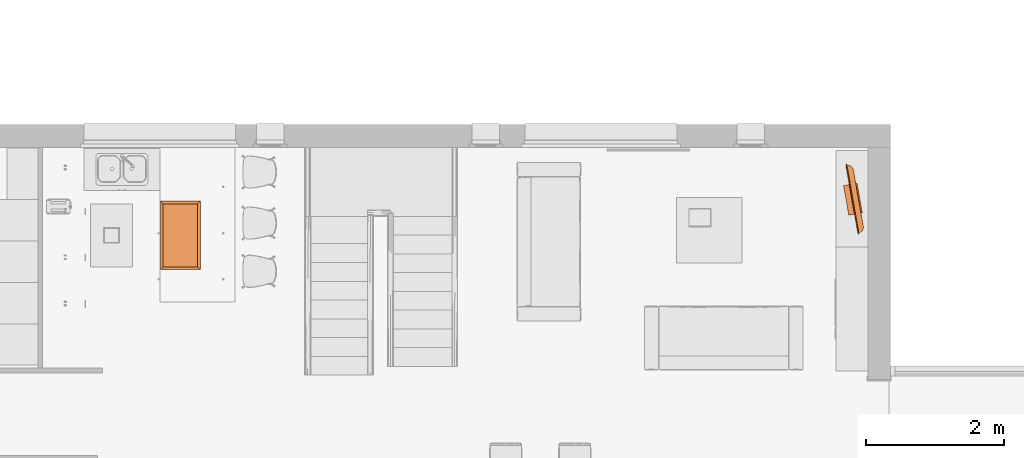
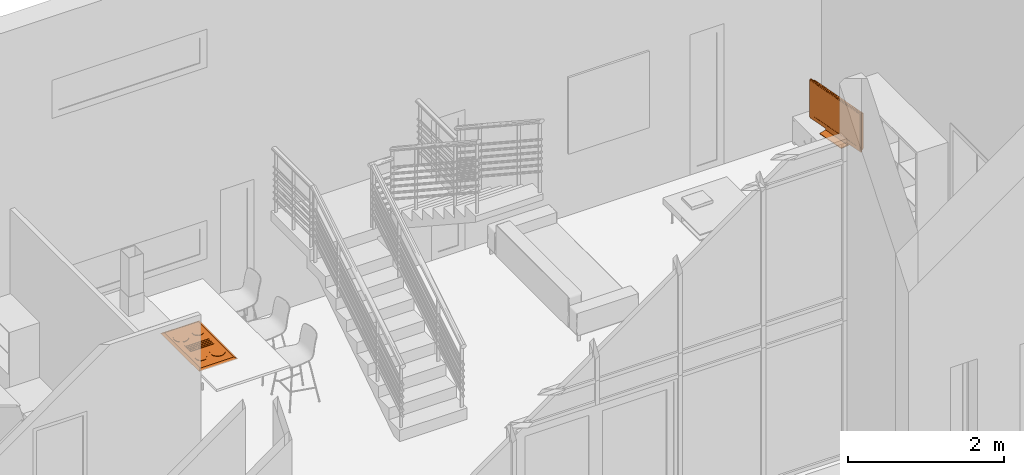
# One storey, part 39 of 40: 2 proxies.
"""IFC2X3 building model written with IfcOpenShell, lengths in metres."""

from ifc_helpers import new_model, entity, si_unit, converted_unit, derived_unit, direction, frame, origin, place, context, subcontext, project, spatial, faceted_brep, source, transform, mapped, material, material_list, type_object, type_shapes, element, save


model = new_model("IFC2X3")

# Units and contexts
model_context = context("Model", 3, precision=1e-05, world=origin(), true_north=direction((6.12303176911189e-17, 1.0)))
body_context = subcontext(model_context, "Body", "Model", "MODEL_VIEW")
ifc_project = project(units=[si_unit("LENGTHUNIT", "METRE"), si_unit("AREAUNIT", "SQUARE_METRE"), si_unit("VOLUMEUNIT", "CUBIC_METRE"), converted_unit("PLANEANGLEUNIT", "DEGREE", entity("IfcRatioMeasure", 0.0174532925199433), si_unit("PLANEANGLEUNIT", "RADIAN"), dimensions=[0, 0, 0, 0, 0, 0, 0]), si_unit("MASSUNIT", "GRAM", prefix="KILO"), derived_unit("MASSDENSITYUNIT", [(si_unit("MASSUNIT", "GRAM", prefix="KILO"), 1), (si_unit("LENGTHUNIT", "METRE"), -3)]), si_unit("TIMEUNIT", "SECOND"), si_unit("FREQUENCYUNIT", "HERTZ"), si_unit("THERMODYNAMICTEMPERATUREUNIT", "DEGREE_CELSIUS"), derived_unit("THERMALTRANSMITTANCEUNIT", [(si_unit("MASSUNIT", "GRAM", prefix="KILO"), 1), (si_unit("THERMODYNAMICTEMPERATUREUNIT", "KELVIN"), -1), (si_unit("TIMEUNIT", "SECOND"), -3)]), derived_unit("VOLUMETRICFLOWRATEUNIT", [(si_unit("LENGTHUNIT", "METRE"), 3), (si_unit("TIMEUNIT", "SECOND"), -1)]), si_unit("ELECTRICCURRENTUNIT", "AMPERE"), si_unit("ELECTRICVOLTAGEUNIT", "VOLT"), si_unit("POWERUNIT", "WATT"), si_unit("FORCEUNIT", "NEWTON", prefix="KILO"), si_unit("ILLUMINANCEUNIT", "LUX"), si_unit("LUMINOUSFLUXUNIT", "LUMEN"), si_unit("LUMINOUSINTENSITYUNIT", "CANDELA"), derived_unit("USERDEFINED", [(si_unit("MASSUNIT", "GRAM", prefix="KILO"), -1), (si_unit("LENGTHUNIT", "METRE"), -2), (si_unit("TIMEUNIT", "SECOND"), 3), (si_unit("LUMINOUSFLUXUNIT", "LUMEN"), 1)]), derived_unit("LINEARVELOCITYUNIT", [(si_unit("LENGTHUNIT", "METRE"), 1), (si_unit("TIMEUNIT", "SECOND"), -1)]), si_unit("PRESSUREUNIT", "PASCAL"), derived_unit("USERDEFINED", [(si_unit("LENGTHUNIT", "METRE"), -2), (si_unit("MASSUNIT", "GRAM", prefix="KILO"), 1), (si_unit("TIMEUNIT", "SECOND"), -2)])], contexts=[model_context])

# Site, building, storey, space
site_placement = place(None, origin())
site = spatial("IfcSite", under=ifc_project, at=site_placement, Name="Surface", CompositionType="ELEMENT")
building_placement = place(site_placement, origin())
building = spatial("IfcBuilding", under=site, at=building_placement, CompositionType="ELEMENT")
storey_placement = place(building_placement, origin())
storey = spatial("IfcBuildingStorey", under=building, at=storey_placement, Name="RDC", CompositionType="ELEMENT", Elevation=-1.0941605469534e-13)
space_1_placement = place(storey_placement, origin())
space_1 = spatial("IfcSpace", under=storey, at=space_1_placement, Name="13", CompositionType="ELEMENT", InteriorOrExteriorSpace="INTERNAL")

# Proxy
ifc_material_1 = material(Name="TV - Cadre")
ifc_material_2 = material(Name="TV - Noir")
ifc_material_3 = material(Name="TV - Verre")
ifc_material_list_1 = material_list([ifc_material_1, ifc_material_2, ifc_material_3])
ifc_material_list_2 = material_list([ifc_material_1, ifc_material_2, ifc_material_3])
building_element_proxy_type_1 = type_object("IfcBuildingElementProxyType", Name="100 mm", PredefinedType="NOTDEFINED", material=ifc_material_list_2)
shared_shape_1 = source(origin(), body_context, "Body", "Brep", [
    faceted_brep([(-0.221833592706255, -0.0214613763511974, 0.0), (-0.221833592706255, -0.121461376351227, 0.0), (-0.221833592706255, -0.121461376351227, 0.0100000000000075), (-0.221833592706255, -0.0214613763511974, 0.0200000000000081), (0.213944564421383, -0.0214613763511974, 0.0), (0.213944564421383, -0.0214613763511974, 0.0200000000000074), (0.213944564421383, -0.121461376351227, 0.0100000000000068), (0.213944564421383, -0.121461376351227, 0.0)], [[[0, 1, 2, 3]], [[4, 5, 6, 7]], [[1, 0, 4, 7]], [[2, 1, 7, 6]], [[3, 2, 6, 5]], [[0, 3, 5, 4]]]),
    faceted_brep([(-0.221833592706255, -0.0214613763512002, 0.0800000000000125), (-0.221833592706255, -0.00146137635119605, 0.0800000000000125), (-0.221833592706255, 0.0785386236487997, 0.0), (-0.221833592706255, -0.0214613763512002, 0.0), (0.213944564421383, -0.0214613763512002, 0.0800000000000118), (0.213944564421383, -0.0214613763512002, 0.0), (0.213944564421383, 0.0785386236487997, 0.0), (0.213944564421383, -0.00146137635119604, 0.0800000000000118)], [[[0, 1, 2, 3]], [[4, 5, 6, 7]], [[1, 0, 4, 7]], [[2, 1, 7, 6]], [[3, 2, 6, 5]], [[0, 3, 5, 4]]]),
    faceted_brep([(0.4918336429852, -0.0394613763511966, 0.650295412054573), (-0.499722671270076, -0.0394613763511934, 0.650295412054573), (-0.499722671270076, -0.0394613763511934, 0.0799999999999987), (0.4918336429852, -0.0394613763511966, 0.0799999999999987), (-0.439722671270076, -0.0394613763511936, 0.610295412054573), (0.4318336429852, -0.0394613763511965, 0.610295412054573), (0.4318336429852, -0.0394613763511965, 0.119999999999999), (-0.439722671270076, -0.0394613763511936, 0.119999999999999), (0.4918336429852, -0.0214613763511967, 0.650295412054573), (0.4918336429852, -0.0214613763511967, 0.0799999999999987), (-0.499722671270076, -0.0214613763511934, 0.0799999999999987), (-0.499722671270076, -0.0214613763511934, 0.650295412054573), (-0.439722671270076, -0.0364613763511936, 0.610295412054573), (-0.439722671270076, -0.0364613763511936, 0.119999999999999), (0.4318336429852, -0.0364613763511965, 0.119999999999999), (0.4318336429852, -0.0364613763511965, 0.610295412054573)], [[[0, 1, 2, 3], [4, 5, 6, 7]], [[8, 9, 10, 11]], [[1, 0, 8, 11]], [[2, 1, 11, 10]], [[3, 2, 10, 9]], [[0, 3, 9, 8]], [[12, 13, 14, 15]], [[12, 15, 5, 4]], [[15, 14, 6, 5]], [[14, 13, 7, 6]], [[13, 12, 4, 7]]]),
    faceted_brep([(0.511322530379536, -0.0364613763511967, 0.659177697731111), (0.509824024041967, -0.0364613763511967, 0.662795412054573), (0.4918336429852, -0.0364613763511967, 0.650295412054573), (0.5118336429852, -0.0364613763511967, 0.655295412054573), (0.507440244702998, -0.0364613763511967, 0.665902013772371), (0.5043336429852, -0.0364613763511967, 0.668285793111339), (0.500715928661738, -0.0364613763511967, 0.669784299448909), (0.4968336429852, -0.0364613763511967, 0.670295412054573), (-0.499722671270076, -0.0364613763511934, 0.650295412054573), (-0.504722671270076, -0.0364613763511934, 0.670295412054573), (-0.508604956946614, -0.0364613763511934, 0.669784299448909), (-0.512222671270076, -0.0364613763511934, 0.66828579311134), (-0.515329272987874, -0.0364613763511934, 0.665902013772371), (-0.517713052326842, -0.0364613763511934, 0.662795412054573), (-0.519211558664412, -0.0364613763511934, 0.659177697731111), (-0.519722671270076, -0.0364613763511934, 0.655295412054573), (-0.499722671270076, -0.0364613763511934, 0.0799999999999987), (-0.519722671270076, -0.0364613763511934, 0.0749999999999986), (-0.519211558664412, -0.0364613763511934, 0.0711177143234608), (-0.517713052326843, -0.0364613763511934, 0.0674999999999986), (-0.515329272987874, -0.0364613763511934, 0.0643933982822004), (-0.512222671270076, -0.0364613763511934, 0.0620096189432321), (-0.508604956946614, -0.0364613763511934, 0.0605111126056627), (-0.504722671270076, -0.0364613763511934, 0.0599999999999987), (0.4968336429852, -0.0364613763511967, 0.0599999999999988), (0.4918336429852, -0.0364613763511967, 0.0799999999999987), (0.500715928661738, -0.0364613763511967, 0.0605111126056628), (0.5043336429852, -0.0364613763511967, 0.0620096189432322), (0.507440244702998, -0.0364613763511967, 0.0643933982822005), (0.509824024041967, -0.0364613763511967, 0.0674999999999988), (0.511322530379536, -0.0364613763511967, 0.071117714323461), (0.5118336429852, -0.0364613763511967, 0.0749999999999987), (-0.519211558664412, -0.0214613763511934, 0.659177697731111), (-0.517713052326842, -0.0214613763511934, 0.662795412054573), (-0.499722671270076, -0.0214613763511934, 0.650295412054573), (-0.519722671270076, -0.0214613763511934, 0.655295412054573), (-0.515329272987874, -0.0214613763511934, 0.665902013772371), (-0.512222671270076, -0.0214613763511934, 0.66828579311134), (-0.508604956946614, -0.0214613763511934, 0.669784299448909), (-0.504722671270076, -0.0214613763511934, 0.670295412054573), (0.4918336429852, -0.0214613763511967, 0.650295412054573), (0.4968336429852, -0.0214613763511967, 0.670295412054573), (0.500715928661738, -0.0214613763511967, 0.669784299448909), (0.5043336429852, -0.0214613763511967, 0.668285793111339), (0.507440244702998, -0.0214613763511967, 0.665902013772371), (0.509824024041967, -0.0214613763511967, 0.662795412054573), (0.511322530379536, -0.0214613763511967, 0.659177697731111), (0.5118336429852, -0.0214613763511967, 0.655295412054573), (0.4918336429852, -0.0214613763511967, 0.0799999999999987), (0.5118336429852, -0.0214613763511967, 0.0749999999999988), (0.511322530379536, -0.0214613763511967, 0.071117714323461), (0.509824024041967, -0.0214613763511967, 0.0674999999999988), (0.507440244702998, -0.0214613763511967, 0.0643933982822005), (0.5043336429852, -0.0214613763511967, 0.0620096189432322), (0.500715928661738, -0.0214613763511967, 0.0605111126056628), (0.4968336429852, -0.0214613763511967, 0.0599999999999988), (-0.504722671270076, -0.0214613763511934, 0.0599999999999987), (-0.499722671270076, -0.0214613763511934, 0.0799999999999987), (-0.508604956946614, -0.0214613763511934, 0.0605111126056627), (-0.512222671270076, -0.0214613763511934, 0.0620096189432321), (-0.515329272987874, -0.0214613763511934, 0.0643933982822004), (-0.517713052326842, -0.0214613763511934, 0.0674999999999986), (-0.519211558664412, -0.0214613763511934, 0.0711177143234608), (-0.519722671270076, -0.0214613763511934, 0.0749999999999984)], [[[0, 1, 2]], [[2, 3, 0]], [[2, 1, 4]], [[5, 2, 4]], [[2, 5, 6]], [[6, 7, 2]], [[7, 8, 2]], [[9, 8, 7]], [[9, 10, 8]], [[11, 8, 10]], [[8, 11, 12]], [[8, 12, 13]], [[13, 14, 8]], [[15, 8, 14]], [[8, 15, 16]], [[16, 15, 17]], [[18, 16, 17]], [[19, 16, 18]], [[20, 16, 19]], [[21, 16, 20]], [[16, 21, 22]], [[22, 23, 16]], [[16, 23, 24]], [[25, 16, 24]], [[24, 26, 25]], [[27, 25, 26]], [[25, 27, 28]], [[25, 28, 29]], [[25, 29, 30]], [[30, 31, 25]], [[31, 3, 25]], [[3, 2, 25]], [[32, 33, 34]], [[34, 35, 32]], [[34, 33, 36]], [[37, 34, 36]], [[34, 37, 38]], [[38, 39, 34]], [[39, 40, 34]], [[41, 40, 39]], [[41, 42, 40]], [[43, 40, 42]], [[40, 43, 44]], [[40, 44, 45]], [[45, 46, 40]], [[47, 40, 46]], [[40, 47, 48]], [[48, 47, 49]], [[50, 48, 49]], [[51, 48, 50]], [[52, 48, 51]], [[53, 48, 52]], [[48, 53, 54]], [[54, 55, 48]], [[48, 55, 56]], [[57, 48, 56]], [[56, 58, 57]], [[59, 57, 58]], [[57, 59, 60]], [[57, 60, 61]], [[57, 61, 62]], [[62, 63, 57]], [[63, 35, 57]], [[35, 34, 57]], [[9, 7, 41, 39]], [[10, 9, 39, 38]], [[11, 10, 38, 37]], [[12, 11, 37, 36]], [[13, 12, 36, 33]], [[14, 13, 33, 32]], [[15, 14, 32, 35]], [[17, 15, 35, 63]], [[18, 17, 63, 62]], [[19, 18, 62, 61]], [[20, 19, 61, 60]], [[21, 20, 60, 59]], [[22, 21, 59, 58]], [[23, 22, 58, 56]], [[24, 23, 56, 55]], [[26, 24, 55, 54]], [[27, 26, 54, 53]], [[28, 27, 53, 52]], [[29, 28, 52, 51]], [[30, 29, 51, 50]], [[31, 30, 50, 49]], [[3, 31, 49, 47]], [[0, 3, 47, 46]], [[1, 0, 46, 45]], [[4, 1, 45, 44]], [[5, 4, 44, 43]], [[6, 5, 43, 42]], [[7, 6, 42, 41]], [[25, 2, 40, 48]], [[16, 25, 48, 57]], [[8, 16, 57, 34]], [[2, 8, 34, 40]]]),
    faceted_brep([(0.491833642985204, -0.0214613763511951, 0.0799999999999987), (0.491833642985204, -0.0214613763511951, 0.650295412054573), (-0.132781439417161, -0.021461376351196, 0.650295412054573), (-0.499722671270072, -0.0214613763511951, 0.650295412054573), (-0.499722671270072, -0.0214613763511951, 0.0799999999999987), (-0.419722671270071, 0.0585386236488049, 0.0799999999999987), (-0.419722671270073, 0.0585386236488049, 0.570295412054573), (-0.107415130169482, 0.0585386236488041, 0.570295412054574), (0.411833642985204, 0.0585386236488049, 0.570295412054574), (0.411833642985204, 0.0585386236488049, 0.0799999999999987), (-0.440428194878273, 0.0558126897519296, 0.0799999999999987), (0.432539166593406, 0.0558126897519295, 0.0799999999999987), (0.451833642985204, 0.0478206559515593, 0.0799999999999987), (0.468402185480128, 0.0351071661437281, 0.0799999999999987), (0.481115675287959, 0.0185386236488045, 0.0799999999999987), (0.489107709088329, -0.000755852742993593, 0.0799999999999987), (-0.496996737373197, -0.000755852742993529, 0.0799999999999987), (-0.489004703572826, 0.0185386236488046, 0.0799999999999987), (-0.476291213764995, 0.0351071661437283, 0.0799999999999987), (-0.459722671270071, 0.0478206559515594, 0.0799999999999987), (0.48111567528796, 0.0185386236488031, 0.639577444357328), (0.48910770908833, -0.00075585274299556, 0.647569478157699), (0.468402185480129, 0.0351071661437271, 0.626863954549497), (0.432539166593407, 0.0558126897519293, 0.591000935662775), (0.451833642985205, 0.0478206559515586, 0.610295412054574), (-0.00394451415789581, 0.00882627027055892, 0.644340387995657), (-0.143458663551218, -0.00544887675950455, 0.64867653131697), (-0.440428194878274, 0.0558126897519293, 0.591000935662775), (0.0595280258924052, 0.0570406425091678, 0.585704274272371), (-0.496996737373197, -0.000755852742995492, 0.647569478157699), (-0.489004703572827, 0.018538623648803, 0.639577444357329), (-0.476291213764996, 0.0351071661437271, 0.626863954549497), (-0.0671363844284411, 0.0268594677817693, 0.63405351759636), (-0.00394451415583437, 0.0415809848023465, 0.619546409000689), (-0.0336348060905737, 0.0521677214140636, 0.601580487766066), (-0.459722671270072, 0.0478206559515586, 0.610295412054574)], [[[0, 1, 2, 3, 4]], [[5, 6, 7, 8, 9]], [[10, 5, 9, 11, 12, 13, 14, 15, 0, 4, 16, 17, 18, 19]], [[20, 21, 15, 14]], [[22, 20, 14, 13]], [[1, 0, 15, 21]], [[23, 24, 12, 11]], [[8, 23, 11, 9]], [[13, 12, 24, 22]], [[21, 25, 26]], [[27, 28, 7]], [[8, 28, 23]], [[29, 25, 30]], [[1, 21, 26]], [[26, 25, 29]], [[31, 32, 33]], [[2, 1, 26, 3]], [[20, 22, 32]], [[21, 20, 25]], [[32, 22, 33]], [[30, 25, 32]], [[28, 34, 23]], [[24, 34, 33]], [[7, 28, 8]], [[22, 24, 33]], [[33, 35, 31]], [[35, 33, 34]], [[27, 34, 28]], [[27, 35, 34]], [[27, 7, 6]], [[20, 32, 25]], [[23, 34, 24]], [[3, 26, 29]], [[31, 30, 32]], [[4, 3, 29, 16]], [[16, 29, 30, 17]], [[17, 30, 31, 18]], [[19, 35, 27, 10]], [[10, 27, 6, 5]], [[18, 31, 35, 19]]]),
])
type_shapes(building_element_proxy_type_1, [shared_shape_1])
proxy_1_placement = place(space_1_placement, frame((9.27431169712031, 6.79526521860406, 0.419999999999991), z_axis=(0.0, 0.0, 1.0), x_axis=(0.173648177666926, -0.984807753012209, 0.0)))
element("IfcBuildingElementProxy", 1, at=proxy_1_placement, inside=space_1, type_object=building_element_proxy_type_1, material=ifc_material_list_1, Name="TV - Ecran plat:100 mm", ObjectType="100 mm", context=body_context, shape_type="MappedRepresentation", body=[
    mapped(shared_shape_1, transform((0.0, 0.0, 0.0), scale=1.0)),
])

# Space
space_2_placement = place(storey_placement, origin())
space_2 = spatial("IfcSpace", under=storey, at=space_2_placement, Name="21", CompositionType="ELEMENT", InteriorOrExteriorSpace="INTERNAL")

# Proxy
ifc_material_4 = material(Name="Métal - Chrome")
ifc_material_5 = material(Name="Métal - Acier, Poli")
ifc_material_list_3 = material_list([ifc_material_4, ifc_material_5])
ifc_material_list_4 = material_list([ifc_material_4, ifc_material_5])
building_element_proxy_type_2 = type_object("IfcBuildingElementProxyType", Name="915 x 500 mm", PredefinedType="NOTDEFINED", material=ifc_material_list_4)
shared_shape_2 = source(origin(), body_context, "Body", "Brep", [
    faceted_brep([(0.44479999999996, 0.461900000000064, 0.02435), (0.41939999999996, 0.461900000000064, 0.02435), (0.41939999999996, 0.114300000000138, 0.02435), (0.44479999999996, 0.114300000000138, 0.02435), (0.44479999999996, 0.461900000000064, 0.018), (0.41939999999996, 0.461900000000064, 0.018), (0.41939999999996, 0.114300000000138, 0.018), (0.44479999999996, 0.114300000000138, 0.018)], [[[0, 1, 2, 3]], [[1, 0, 4, 5]], [[2, 1, 5, 6]], [[3, 2, 6, 7]], [[0, 3, 7, 4]], [[4, 7, 6, 5]]]),
    faceted_brep([(0.720739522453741, 0.235499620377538, 0.02435), (0.708378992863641, 0.227240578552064, 0.02435), (0.69601846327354, 0.218981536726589, 0.02435), (0.687759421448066, 0.206621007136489, 0.02435), (0.679500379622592, 0.194260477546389, 0.02435), (0.676600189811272, 0.179680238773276, 0.02435), (0.673699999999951, 0.165100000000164, 0.02435), (0.677392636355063, 0.146535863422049, 0.02435), (0.679500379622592, 0.135939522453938, 0.02435), (0.687759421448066, 0.123578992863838, 0.02435), (0.696018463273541, 0.111218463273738, 0.02435), (0.70837899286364, 0.102959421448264, 0.02435), (0.720739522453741, 0.0947003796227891, 0.02435), (0.735319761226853, 0.0918001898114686, 0.02435), (0.749899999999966, 0.0889000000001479, 0.02435), (0.764480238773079, 0.0918001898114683, 0.02435), (0.779060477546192, 0.094700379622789, 0.02435), (0.791421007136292, 0.102959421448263, 0.02435), (0.803781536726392, 0.111218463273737, 0.02435), (0.812040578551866, 0.123578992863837, 0.02435), (0.820299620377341, 0.135939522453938, 0.02435), (0.823199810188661, 0.15051976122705, 0.02435), (0.826099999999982, 0.165100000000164, 0.02435), (0.822407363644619, 0.18366413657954, 0.02435), (0.820299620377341, 0.19426047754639, 0.02435), (0.812040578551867, 0.206621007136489, 0.02435), (0.803781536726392, 0.21898153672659, 0.02435), (0.791421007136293, 0.227240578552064, 0.02435), (0.779060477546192, 0.235499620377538, 0.02435), (0.76448023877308, 0.238399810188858, 0.02435), (0.749899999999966, 0.241300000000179, 0.02435), (0.735319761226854, 0.238399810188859, 0.02435), (0.803781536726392, 0.111218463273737, 0.018), (0.791421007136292, 0.102959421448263, 0.018), (0.779060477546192, 0.094700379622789, 0.018), (0.764480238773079, 0.0918001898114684, 0.018), (0.749899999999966, 0.0889000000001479, 0.018), (0.735319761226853, 0.0918001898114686, 0.018), (0.720739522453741, 0.0947003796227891, 0.018), (0.70837899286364, 0.102959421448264, 0.018), (0.696018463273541, 0.111218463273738, 0.018), (0.687759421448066, 0.123578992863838, 0.018), (0.679500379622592, 0.135939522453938, 0.018), (0.676600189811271, 0.150519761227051, 0.018), (0.673699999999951, 0.165100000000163, 0.018), (0.676600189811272, 0.179680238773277, 0.018), (0.679500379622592, 0.194260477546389, 0.018), (0.687759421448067, 0.206621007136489, 0.018), (0.69601846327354, 0.218981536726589, 0.018), (0.708378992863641, 0.227240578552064, 0.018), (0.720739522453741, 0.235499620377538, 0.018), (0.735319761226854, 0.238399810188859, 0.018), (0.749899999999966, 0.241300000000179, 0.018), (0.76448023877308, 0.238399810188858, 0.018), (0.779060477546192, 0.235499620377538, 0.018), (0.791421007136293, 0.227240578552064, 0.018), (0.803781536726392, 0.21898153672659, 0.018), (0.812040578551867, 0.206621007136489, 0.018), (0.820299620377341, 0.19426047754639, 0.018), (0.823199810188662, 0.179680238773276, 0.018), (0.826099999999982, 0.165100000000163, 0.018), (0.823199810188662, 0.15051976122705, 0.018), (0.820299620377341, 0.135939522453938, 0.018), (0.812040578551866, 0.123578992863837, 0.018)], [[[0, 1, 2, 3, 4, 5, 6, 7, 8, 9, 10, 11, 12, 13, 14, 15, 16, 17, 18, 19, 20, 21, 22, 23, 24, 25, 26, 27, 28, 29, 30, 31]], [[32, 33, 34, 35, 36, 37, 38, 39, 40, 41, 42, 43, 44, 45, 46, 47, 48, 49, 50, 51, 52, 53, 54, 55, 56, 57, 58, 59, 60, 61, 62, 63]], [[58, 24, 23, 22, 60, 59]], [[58, 57, 56, 26, 25, 24]], [[45, 44, 6, 5, 4, 46]], [[56, 55, 54, 28, 27, 26]], [[30, 29, 28, 54, 53, 52]], [[52, 51, 50, 0, 31, 30]], [[3, 2, 48, 47, 46, 4]], [[50, 49, 48, 2, 1, 0]], [[42, 8, 7, 6, 44, 43]], [[42, 41, 40, 10, 9, 8]], [[61, 60, 22, 21, 20, 62]], [[40, 39, 38, 12, 11, 10]], [[14, 13, 12, 38, 37, 36]], [[36, 35, 34, 16, 15, 14]], [[19, 18, 32, 63, 62, 20]], [[34, 33, 32, 18, 17, 16]]]),
    faceted_brep([(0.178843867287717, 0.36936814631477, 0.018), (0.170542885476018, 0.38179144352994, 0.018), (0.167627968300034, 0.39644572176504, 0.018), (0.16471305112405, 0.411100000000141, 0.018), (0.167627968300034, 0.425754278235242, 0.018), (0.170542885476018, 0.440408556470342, 0.018), (0.178843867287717, 0.452831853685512, 0.018), (0.187144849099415, 0.465255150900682, 0.018), (0.199568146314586, 0.473556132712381, 0.018), (0.211991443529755, 0.481857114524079, 0.018), (0.226645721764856, 0.484772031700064, 0.018), (0.241299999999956, 0.487686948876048, 0.018), (0.255954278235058, 0.484772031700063, 0.018), (0.270608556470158, 0.48185711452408, 0.018), (0.283031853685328, 0.473556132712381, 0.018), (0.295455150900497, 0.465255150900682, 0.018), (0.303756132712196, 0.452831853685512, 0.018), (0.312057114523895, 0.440408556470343, 0.018), (0.314972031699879, 0.425754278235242, 0.018), (0.317886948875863, 0.411100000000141, 0.018), (0.314972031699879, 0.39644572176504, 0.018), (0.312057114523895, 0.381791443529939, 0.018), (0.303756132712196, 0.36936814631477, 0.018), (0.295455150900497, 0.3569448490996, 0.018), (0.283031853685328, 0.348643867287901, 0.018), (0.270608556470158, 0.340342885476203, 0.018), (0.255954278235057, 0.337427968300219, 0.0179999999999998), (0.241299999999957, 0.334513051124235, 0.018), (0.226645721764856, 0.337427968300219, 0.018), (0.211991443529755, 0.340342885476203, 0.018), (0.199568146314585, 0.348643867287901, 0.018), (0.187144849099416, 0.3569448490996, 0.018), (0.187144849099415, 0.465255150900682, 0.02435), (0.178843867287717, 0.452831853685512, 0.02435), (0.170542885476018, 0.440408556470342, 0.02435), (0.167627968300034, 0.425754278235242, 0.02435), (0.16471305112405, 0.411100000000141, 0.02435), (0.168415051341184, 0.392488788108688, 0.02435), (0.170542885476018, 0.38179144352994, 0.02435), (0.178843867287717, 0.36936814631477, 0.02435), (0.187144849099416, 0.3569448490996, 0.02435), (0.199568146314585, 0.348643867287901, 0.02435), (0.211991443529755, 0.340342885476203, 0.02435), (0.226645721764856, 0.337427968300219, 0.02435), (0.241299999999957, 0.334513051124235, 0.02435), (0.255954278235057, 0.337427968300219, 0.02435), (0.270608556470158, 0.340342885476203, 0.02435), (0.283031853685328, 0.348643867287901, 0.02435), (0.295455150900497, 0.3569448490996, 0.02435), (0.303756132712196, 0.36936814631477, 0.02435), (0.312057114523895, 0.381791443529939, 0.02435), (0.314972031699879, 0.39644572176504, 0.02435), (0.317886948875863, 0.411100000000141, 0.02435), (0.314184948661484, 0.429711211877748, 0.02435), (0.312057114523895, 0.440408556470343, 0.02435), (0.303756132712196, 0.452831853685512, 0.02435), (0.295455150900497, 0.465255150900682, 0.02435), (0.283031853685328, 0.473556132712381, 0.02435), (0.270608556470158, 0.48185711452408, 0.02435), (0.255954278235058, 0.484772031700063, 0.02435), (0.241299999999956, 0.487686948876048, 0.02435), (0.226645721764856, 0.484772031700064, 0.02435), (0.211991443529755, 0.481857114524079, 0.02435), (0.199568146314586, 0.473556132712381, 0.02435)], [[[0, 1, 2, 3, 4, 5, 6, 7, 8, 9, 10, 11, 12, 13, 14, 15, 16, 17, 18, 19, 20, 21, 22, 23, 24, 25, 26, 27, 28, 29, 30, 31]], [[32, 33, 34, 35, 36, 37, 38, 39, 40, 41, 42, 43, 44, 45, 46, 47, 48, 49, 50, 51, 52, 53, 54, 55, 56, 57, 58, 59, 60, 61, 62, 63]], [[17, 54, 53, 52, 19, 18]], [[17, 16, 15, 56, 55, 54]], [[4, 3, 36, 35, 34, 5]], [[15, 14, 13, 58, 57, 56]], [[60, 59, 58, 13, 12, 11]], [[11, 10, 9, 62, 61, 60]], [[33, 32, 7, 6, 5, 34]], [[9, 8, 7, 32, 63, 62]], [[1, 38, 37, 36, 3, 2]], [[1, 0, 31, 40, 39, 38]], [[50, 21, 20, 19, 52, 51]], [[31, 30, 29, 42, 41, 40]], [[44, 43, 42, 29, 28, 27]], [[27, 26, 25, 46, 45, 44]], [[49, 48, 23, 22, 21, 50]], [[25, 24, 23, 48, 47, 46]]]),
    faceted_brep([(0.699099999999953, 0.323111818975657, 0.018), (0.672069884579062, 0.345792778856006, 0.018), (0.654427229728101, 0.376350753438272, 0.018), (0.648299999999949, 0.411100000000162, 0.018), (0.654427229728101, 0.445849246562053, 0.018), (0.672069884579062, 0.47640722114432, 0.018), (0.699099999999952, 0.499088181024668, 0.018), (0.732257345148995, 0.511156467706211, 0.018), (0.767542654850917, 0.511156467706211, 0.018), (0.80069999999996, 0.499088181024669, 0.018), (0.82773011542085, 0.476407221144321, 0.018), (0.845372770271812, 0.445849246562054, 0.018), (0.851499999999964, 0.411100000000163, 0.018), (0.845372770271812, 0.376350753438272, 0.018), (0.827730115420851, 0.345792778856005, 0.018), (0.80069999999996, 0.323111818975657, 0.018), (0.767542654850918, 0.311043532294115, 0.018), (0.732257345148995, 0.311043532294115, 0.018), (0.767542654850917, 0.511156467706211, 0.02435), (0.732257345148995, 0.511156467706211, 0.02435), (0.699099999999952, 0.499088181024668, 0.02435), (0.672069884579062, 0.47640722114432, 0.02435), (0.654427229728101, 0.445849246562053, 0.02435), (0.648299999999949, 0.411100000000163, 0.02435), (0.654427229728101, 0.376350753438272, 0.02435), (0.672069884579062, 0.345792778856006, 0.02435), (0.699099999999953, 0.323111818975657, 0.02435), (0.732257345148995, 0.311043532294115, 0.02435), (0.767542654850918, 0.311043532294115, 0.02435), (0.80069999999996, 0.323111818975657, 0.02435), (0.827730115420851, 0.345792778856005, 0.02435), (0.845372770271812, 0.376350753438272, 0.02435), (0.851499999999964, 0.411100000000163, 0.02435), (0.845372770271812, 0.445849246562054, 0.02435), (0.82773011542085, 0.476407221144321, 0.02435), (0.80069999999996, 0.499088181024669, 0.02435)], [[[0, 1, 2, 3, 4, 5, 6, 7, 8, 9, 10, 11, 12, 13, 14, 15, 16, 17]], [[18, 19, 20, 21, 22, 23, 24, 25, 26, 27, 28, 29, 30, 31, 32, 33, 34, 35]], [[33, 32, 12, 11]], [[35, 34, 10, 9]], [[11, 10, 34, 33]], [[9, 8, 18, 35]], [[8, 7, 19, 18]], [[20, 19, 7, 6]], [[22, 21, 5, 4]], [[6, 5, 21, 20]], [[4, 3, 23, 22]], [[24, 23, 3, 2]], [[26, 25, 1, 0]], [[2, 1, 25, 24]], [[0, 17, 27, 26]], [[17, 16, 28, 27]], [[29, 28, 16, 15]], [[13, 12, 32, 31]], [[15, 14, 30, 29]], [[13, 31, 30, 14]]]),
    faceted_brep([(0.45114999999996, 0.461900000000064, 0.02435), (0.47654999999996, 0.461900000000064, 0.02435), (0.47654999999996, 0.461900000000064, 0.018), (0.45114999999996, 0.461900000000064, 0.018), (0.45114999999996, 0.114300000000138, 0.02435), (0.45114999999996, 0.114300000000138, 0.018), (0.47654999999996, 0.114300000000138, 0.02435), (0.47654999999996, 0.114300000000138, 0.018)], [[[0, 1, 2, 3]], [[4, 0, 3, 5]], [[6, 4, 5, 7]], [[1, 6, 7, 2]], [[2, 7, 5, 3]], [[1, 0, 4, 6]]]),
    faceted_brep([(0.48289999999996, 0.461900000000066, 0.02435), (0.50829999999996, 0.461900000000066, 0.02435), (0.50829999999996, 0.461900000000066, 0.018), (0.48289999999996, 0.461900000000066, 0.018), (0.48289999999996, 0.114300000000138, 0.02435), (0.48289999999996, 0.114300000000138, 0.018), (0.50829999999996, 0.114300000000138, 0.02435), (0.50829999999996, 0.114300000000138, 0.018)], [[[0, 1, 2, 3]], [[4, 0, 3, 5]], [[6, 4, 5, 7]], [[1, 6, 7, 2]], [[2, 7, 5, 3]], [[1, 0, 4, 6]]]),
    faceted_brep([(0.51464999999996, 0.461900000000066, 0.02435), (0.54004999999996, 0.461900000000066, 0.02435), (0.54004999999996, 0.461900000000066, 0.018), (0.51464999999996, 0.461900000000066, 0.018), (0.51464999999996, 0.114300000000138, 0.02435), (0.51464999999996, 0.114300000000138, 0.018), (0.54004999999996, 0.114300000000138, 0.02435), (0.54004999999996, 0.114300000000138, 0.018)], [[[0, 1, 2, 3]], [[4, 0, 3, 5]], [[6, 4, 5, 7]], [[1, 6, 7, 2]], [[2, 7, 5, 3]], [[1, 0, 4, 6]]]),
    faceted_brep([(0.54639999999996, 0.461900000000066, 0.02435), (0.57179999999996, 0.461900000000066, 0.02435), (0.57179999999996, 0.461900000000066, 0.018), (0.54639999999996, 0.461900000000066, 0.018), (0.54639999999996, 0.114300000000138, 0.02435), (0.54639999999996, 0.114300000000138, 0.018), (0.57179999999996, 0.114300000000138, 0.02435), (0.57179999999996, 0.114300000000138, 0.018)], [[[0, 1, 2, 3]], [[4, 0, 3, 5]], [[6, 4, 5, 7]], [[1, 6, 7, 2]], [[2, 7, 5, 3]], [[1, 0, 4, 6]]]),
    faceted_brep([(0.953099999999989, 0.538100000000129, 0.018), (0.0380999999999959, 0.538100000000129, 0.018), (0.0380999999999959, 0.038100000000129, 0.018), (0.953099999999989, 0.038100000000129, 0.018), (0.991199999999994, 0.576200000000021, 0.0), (0.991199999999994, 0.0, 0.0), (0.0, 0.0, 0.0), (0.0, 0.576200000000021, 0.0)], [[[0, 1, 2, 3]], [[4, 5, 6, 7]], [[4, 7, 1, 0]], [[7, 6, 2, 1]], [[6, 5, 3, 2]], [[5, 4, 0, 3]]]),
    faceted_brep([(0.223657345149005, 0.265156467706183, 0.02435), (0.190499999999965, 0.253088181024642, 0.02435), (0.163469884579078, 0.230407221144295, 0.02435), (0.145827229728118, 0.199849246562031, 0.02435), (0.139699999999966, 0.165100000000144, 0.02435), (0.145827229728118, 0.130350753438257, 0.02435), (0.163469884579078, 0.099792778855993, 0.02435), (0.190499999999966, 0.0771118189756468, 0.02435), (0.223657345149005, 0.0650435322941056, 0.02435), (0.258942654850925, 0.0650435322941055, 0.02435), (0.292099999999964, 0.0771118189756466, 0.02435), (0.319130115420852, 0.0997927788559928, 0.02435), (0.336772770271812, 0.130350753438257, 0.02435), (0.342899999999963, 0.165100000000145, 0.02435), (0.336772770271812, 0.199849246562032, 0.02435), (0.319130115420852, 0.230407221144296, 0.02435), (0.292099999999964, 0.253088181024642, 0.02435), (0.258942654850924, 0.265156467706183, 0.02435), (0.190499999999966, 0.0771118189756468, 0.018), (0.163469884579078, 0.099792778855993, 0.018), (0.145827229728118, 0.130350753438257, 0.018), (0.139699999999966, 0.165100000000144, 0.018), (0.145827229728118, 0.199849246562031, 0.018), (0.163469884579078, 0.230407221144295, 0.018), (0.190499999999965, 0.253088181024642, 0.018), (0.223657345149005, 0.265156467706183, 0.018), (0.258942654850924, 0.265156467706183, 0.018), (0.292099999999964, 0.253088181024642, 0.018), (0.319130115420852, 0.230407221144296, 0.018), (0.336772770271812, 0.199849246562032, 0.018), (0.342899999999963, 0.165100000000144, 0.018), (0.336772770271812, 0.130350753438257, 0.018), (0.319130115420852, 0.0997927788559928, 0.018), (0.292099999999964, 0.0771118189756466, 0.018), (0.258942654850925, 0.0650435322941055, 0.018), (0.223657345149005, 0.0650435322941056, 0.018)], [[[0, 1, 2, 3, 4, 5, 6, 7, 8, 9, 10, 11, 12, 13, 14, 15, 16, 17]], [[18, 19, 20, 21, 22, 23, 24, 25, 26, 27, 28, 29, 30, 31, 32, 33, 34, 35]], [[14, 13, 30, 29]], [[16, 15, 28, 27]], [[29, 28, 15, 14]], [[27, 26, 17, 16]], [[26, 25, 0, 17]], [[1, 0, 25, 24]], [[3, 2, 23, 22]], [[24, 23, 2, 1]], [[22, 21, 4, 3]], [[5, 4, 21, 20]], [[7, 6, 19, 18]], [[20, 19, 6, 5]], [[18, 35, 8, 7]], [[35, 34, 9, 8]], [[10, 9, 34, 33]], [[31, 30, 13, 12]], [[33, 32, 11, 10]], [[31, 12, 11, 32]]]),
])
type_shapes(building_element_proxy_type_2, [shared_shape_2])
proxy_2_placement = place(space_2_placement, frame((-0.791187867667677, 6.76666067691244, 0.899999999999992), z_axis=(0.0, 0.0, 1.0), x_axis=(0.0, -1.0, 0.0)))
element("IfcBuildingElementProxy", 2, at=proxy_2_placement, inside=space_2, type_object=building_element_proxy_type_2, material=ifc_material_list_3, Name="Plaque de cuisson - 4 unités:915 x 500 mm", ObjectType="915 x 500 mm", context=body_context, shape_type="MappedRepresentation", body=[
    mapped(shared_shape_2, transform((0.0, 0.0, 0.0), scale=1.0)),
])

save(model, "model.ifc")
